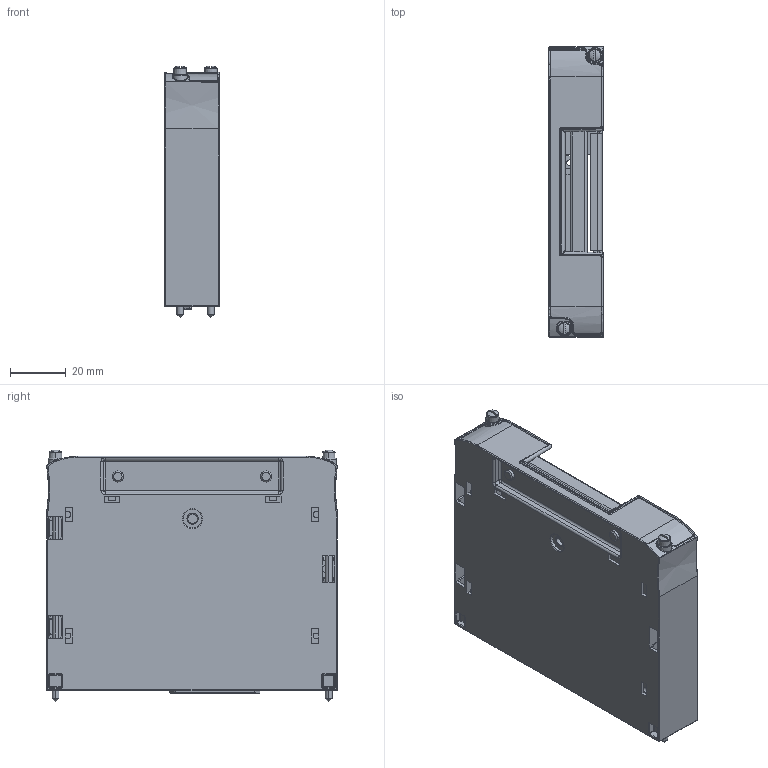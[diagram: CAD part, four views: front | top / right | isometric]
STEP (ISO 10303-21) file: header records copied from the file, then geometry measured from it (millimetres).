
FILE_DESCRIPTION((''),'2;1');
FILE_NAME('CU_PXI_TB_DC_VHDCI','2007-09-12T',('chrisj'),(''),'PRO/ENGINEER BY PARAMETRIC TECHNOLOGY CORPORATION, 2006300','PRO/ENGINEER BY PARAMETRIC TECHNOLOGY CORPORATION, 2006300','');
FILE_SCHEMA(('AUTOMOTIVE_DESIGN_CC2 { 1 2 10303 214 -1 1 5 2 }'));
Products named in the file (1): CU_PXI_TB_DC_VHDCI
Bounding box: 19.53 x 104.54 x 90.6 mm (x, y, z)
Volume: 33986.5 mm3; surface area: 57468.5 mm2
Topology: 2 solids, 2 shells, 1779 faces, 4188 edges, 2467 vertices
Faces by surface type: cylinder 689, plane 581, bspline 213, torus 122, sphere 110, cone 64
Entity records: 65796 total; most frequent: CARTESIAN_POINT 25969, ORIENTED_EDGE 8350, DIRECTION 8220, EDGE_CURVE 4175, AXIS2_PLACEMENT_3D 3072, VERTEX_POINT 2505, VECTOR 2076, LINE 2076
